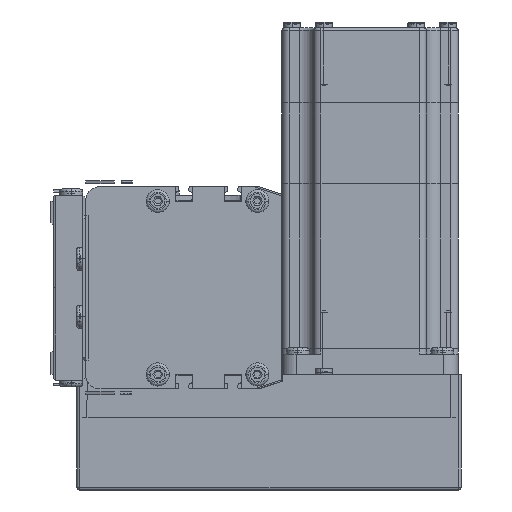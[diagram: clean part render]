
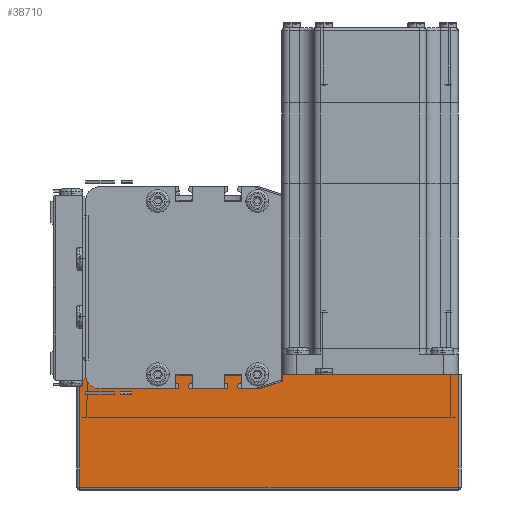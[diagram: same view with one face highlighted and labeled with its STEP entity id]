
A CAD part, left-side view. The second image highlights one B-rep face of the part: STEP entity #38710.
In plain terms, the highlighted planar face has unit normal (-1, 0, 0) as drawn and (0, 1, 0) by its records, which use the part's own axes.
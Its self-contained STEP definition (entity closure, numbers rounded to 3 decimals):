
#38587 = VERTEX_POINT ( 'NONE', #110053 ) ;
#38635 = EDGE_LOOP ( 'NONE', ( #38705, #38711, #38822, #38820 ) ) ;
#38689 = EDGE_CURVE ( 'NONE', #38587, #38692, #110174, .T. ) ;
#38692 = VERTEX_POINT ( 'NONE', #110175 ) ;
#38705 = ORIENTED_EDGE ( 'NONE', *, *, #38734, .T. ) ;
#38710 = ADVANCED_FACE ( 'NONE', ( #110229 ), #110187, .F. ) ;
#38711 = ORIENTED_EDGE ( 'NONE', *, *, #38712, .T. ) ;
#38712 = EDGE_CURVE ( 'NONE', #38736, #38587, #110218, .T. ) ;
#38714 = EDGE_CURVE ( 'NONE', #38692, #38727, #110170, .T. ) ;
#38727 = VERTEX_POINT ( 'NONE', #110222 ) ;
#38734 = EDGE_CURVE ( 'NONE', #38727, #38736, #110247, .T. ) ;
#38736 = VERTEX_POINT ( 'NONE', #110205 ) ;
#38820 = ORIENTED_EDGE ( 'NONE', *, *, #38714, .T. ) ;
#38822 = ORIENTED_EDGE ( 'NONE', *, *, #38689, .T. ) ;
#110053 = CARTESIAN_POINT ( 'NONE',  ( 132., 62., 0. ) ) ;
#110170 = LINE ( 'NONE', #110209, #110208 ) ;
#110171 = DIRECTION ( 'NONE',  ( -1., 0., 0. ) ) ;
#110172 = VECTOR ( 'NONE', #110171, 1000. ) ;
#110173 = CARTESIAN_POINT ( 'NONE',  ( 0., 62., 0. ) ) ;
#110174 = LINE ( 'NONE', #110173, #110172 ) ;
#110175 = CARTESIAN_POINT ( 'NONE',  ( 1., 62., 0. ) ) ;
#110187 = PLANE ( 'NONE',  #110221 ) ;
#110205 = CARTESIAN_POINT ( 'NONE',  ( 132., 62., 39. ) ) ;
#110207 = DIRECTION ( 'NONE',  ( 0., 0., 1. ) ) ;
#110208 = VECTOR ( 'NONE', #110207, 1000. ) ;
#110209 = CARTESIAN_POINT ( 'NONE',  ( 1., 62., 40. ) ) ;
#110211 = DIRECTION ( 'NONE',  ( 0., 0., -1. ) ) ;
#110212 = VECTOR ( 'NONE', #110211, 1000. ) ;
#110213 = CARTESIAN_POINT ( 'NONE',  ( 132., 62., 40. ) ) ;
#110217 = DIRECTION ( 'NONE',  ( 0., 0., -1. ) ) ;
#110218 = LINE ( 'NONE', #110213, #110212 ) ;
#110221 = AXIS2_PLACEMENT_3D ( 'NONE', #110224, #110230, #110217 ) ;
#110222 = CARTESIAN_POINT ( 'NONE',  ( 1., 62., 39. ) ) ;
#110224 = CARTESIAN_POINT ( 'NONE',  ( 0., 62., 40. ) ) ;
#110229 = FACE_OUTER_BOUND ( 'NONE', #38635, .T. ) ;
#110230 = DIRECTION ( 'NONE',  ( 0., -1., 0. ) ) ;
#110243 = DIRECTION ( 'NONE',  ( 1., 0., 0. ) ) ;
#110244 = VECTOR ( 'NONE', #110243, 1000. ) ;
#110245 = CARTESIAN_POINT ( 'NONE',  ( 0., 62., 39. ) ) ;
#110247 = LINE ( 'NONE', #110245, #110244 ) ;
